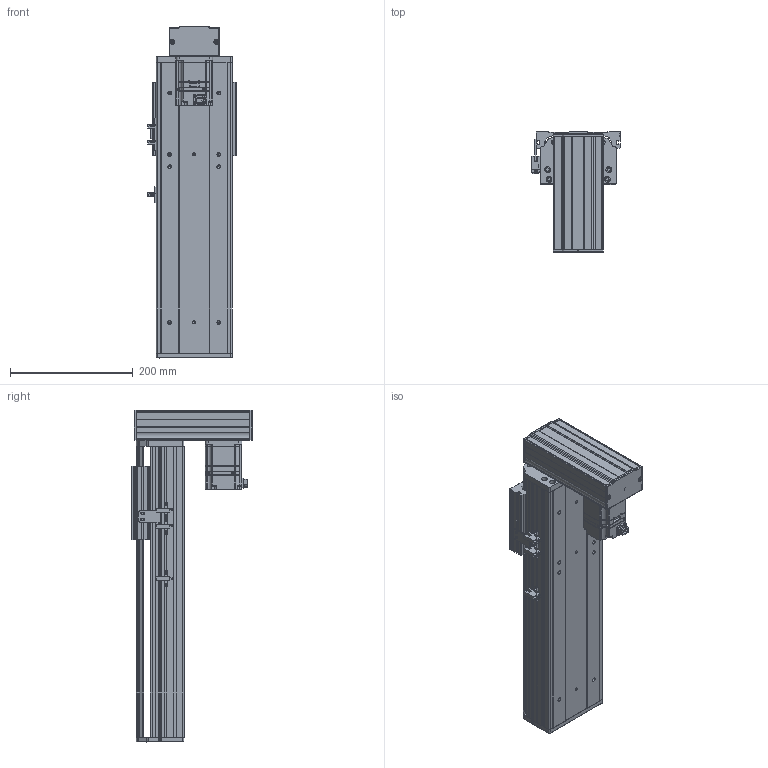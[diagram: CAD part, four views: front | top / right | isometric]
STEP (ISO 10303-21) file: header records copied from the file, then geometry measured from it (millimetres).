
FILE_DESCRIPTION(('Creo Elements/Direct Modeling STEP Export'),'2;1');
FILE_NAME('APOS120UON-ST300.stp','2022-02-18T11:35:16',(''),(''),'Creo Elements/Direct Modeling STEP processor for AP203 (Solid Model)','Creo Elements/Direct Modeling 19.0G 27-Nov-2017 (C) Parametric Technology GmbH','');
FILE_SCHEMA(('CONFIG_CONTROL_DESIGN'));
Length unit declared in the file: millimetre
Products named in the file (17): APCS120_º´·Ä_MOTOR_BRACKET-200_400W; APCS120_º´·Ä_MOTOR_END_COVER; APCS120_º´·Ä_MOTOR_UPPER_COVER-200W_400W; EE_SX672; APOS120_END_PLATE; sgmjv_02a_a21; p1; p2; APOS1200_Carrier; APOS120_SENSOR_DOG; 120_end_cover_1220; p3; APOS120_BASE_FRAME-320L; APOS120UON-1520-ST300-20NN00-N-I3R; APOS120UON-ST300
Assembly tree (19 placements, depth 4):
  APOS120UON-ST300
    APOS120UON-1520-ST300-20NN00-N-I3R
      APOS120_BASE_FRAME-320L
        p3
        p2
        p1
      120_end_cover_1220
      APOS120_SENSOR_DOG
      APOS1200_Carrier
        p2
        p1
      EE_SX672  x3
      sgmjv_02a_a21
      APOS120_END_PLATE
      APCS120_º´·Ä_MOTOR_END_COVER  x2
      APCS120_º´·Ä_MOTOR_UPPER_COVER-200W_400W
      APCS120_º´·Ä_MOTOR_BRACKET-200_400W
Bounding box: 144.2 x 197 x 541.5 mm (x, y, z)
Volume: 2641258.7 mm3; surface area: 705259.9 mm2
Topology: 16 solids, 16 shells, 1819 faces, 4982 edges, 3259 vertices
Faces by surface type: plane 1084, cylinder 612, cone 94, bspline 24, sphere 4, torus 1
Entity records: 52478 total; most frequent: CARTESIAN_POINT 10022, ORIENTED_EDGE 8764, DIRECTION 8237, EDGE_CURVE 4382, VECTOR 3003, LINE 3003, VERTEX_POINT 2895, AXIS2_PLACEMENT_3D 2617
